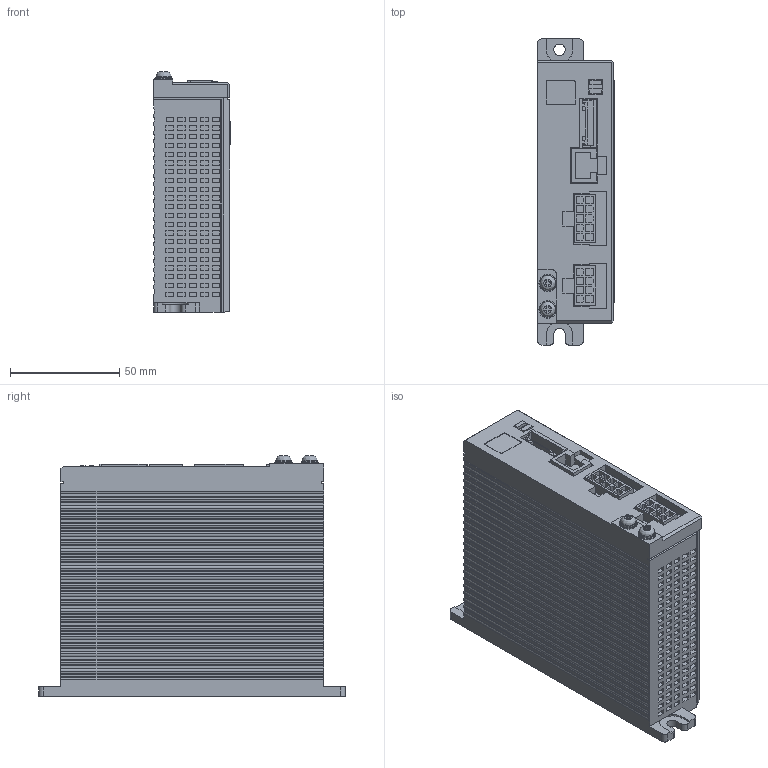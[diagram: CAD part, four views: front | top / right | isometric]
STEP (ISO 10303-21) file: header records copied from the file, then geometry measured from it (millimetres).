
FILE_DESCRIPTION( ( 'STEP AP203' ), ' ' );
FILE_NAME( 'p:/temp/worker_6/2092_1432/app_42_12015072716183605208202260eae72_000000_00_00_000000/format_0/MBEG1E5BCV .stp', '2015-07-27T14:18:39', ( '' ), ( '' ), ' ', 'PARTsolutions', ' ' );
FILE_SCHEMA( ( 'CONFIG_CONTROL_DESIGN' ) );
Length unit declared in the file: millimetre
Products named in the file (1): _MBEG1E5BCV 
Bounding box: 35.1 x 140 x 109.88 mm (x, y, z)
Volume: 431473 mm3; surface area: 51648.7 mm2
Topology: 1 solids, 1 shells, 1515 faces, 3795 edges, 2528 vertices
Faces by surface type: plane 1393, cylinder 120, bspline 2
Full cylindrical faces by diameter (mm): 5.2 x1, 6.98 x2, 7.2 x2, 8 x2
Entity records: 44580 total; most frequent: CARTESIAN_POINT 7984, ORIENTED_EDGE 7568, DIRECTION 7040, EDGE_CURVE 3784, LINE 3508, VECTOR 3508, VERTEX_POINT 2526, EDGE_LOOP 1772
